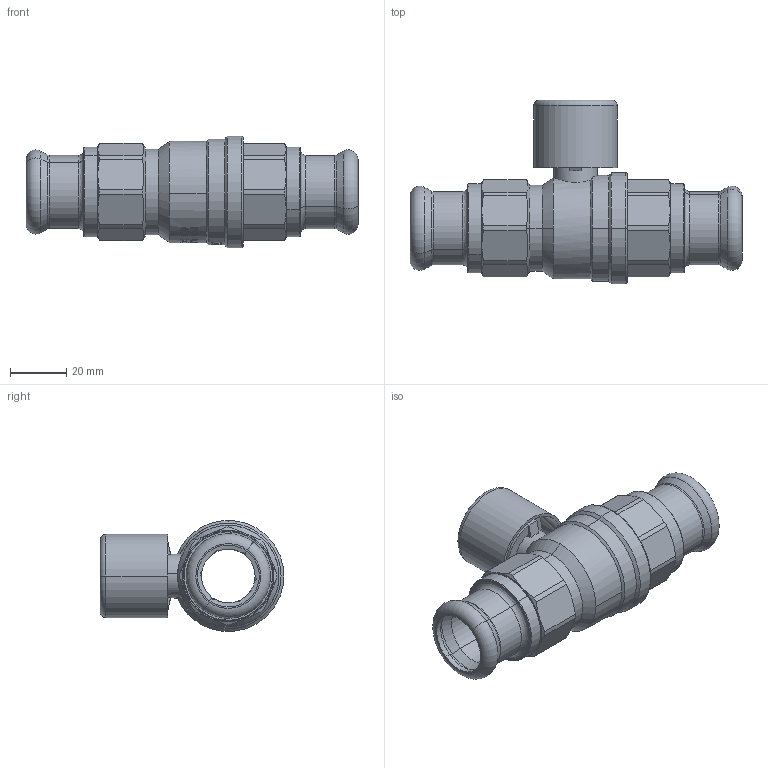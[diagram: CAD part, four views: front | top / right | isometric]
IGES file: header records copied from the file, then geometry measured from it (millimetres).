
Global section: file name: No Iges File Name specified; native system: AutoDesk Inventor R12.0; preprocessor: AutoDesk Inventor Iges Exporter R12.0; date: 20111209.095936; units: millimetre
Bounding box: 117.9 x 65.25 x 39.5 mm (x, y, z)
Volume: 50930 mm3; surface area: 37640.9 mm2
Topology: 1 solids, 6 shells, 619 faces, 1758 edges, 1196 vertices
Faces by surface type: plane 228, revolution 122, cone 89, cylinder 84, bspline 80, torus 14, sphere 2
